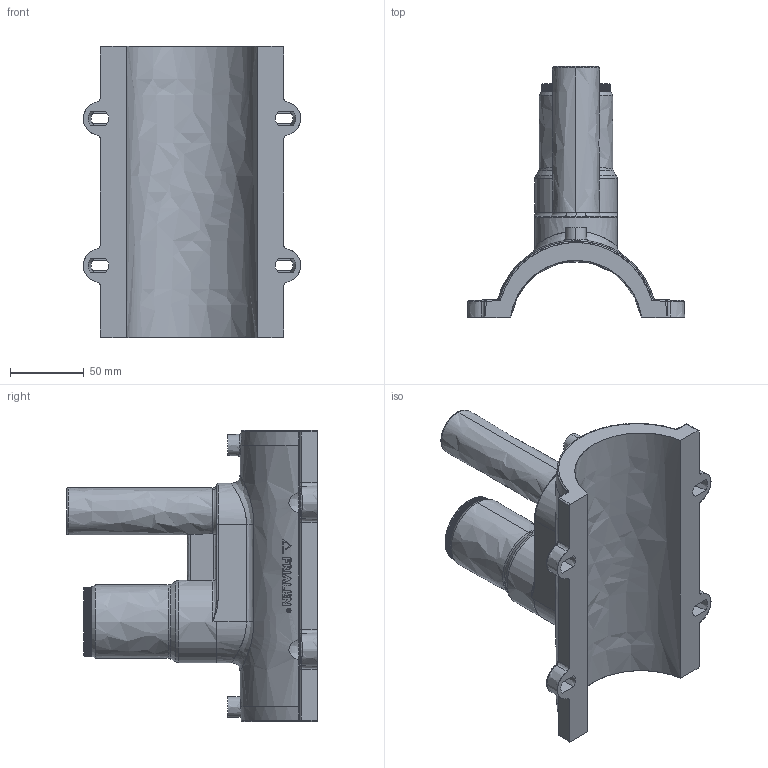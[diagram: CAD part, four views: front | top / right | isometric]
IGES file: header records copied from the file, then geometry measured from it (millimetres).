
Start section:  PTC IGES file: dap_d090_32_01.igs
Global section: file name: dap_d090_32_01.igs; native system: Pro/ENGINEER by Parametric Technology Corporation; preprocessor: 2011490; author: mtunjic; organization: Unknown; date: 20130909.083440; units: millimetre
Bounding box: 147.84 x 170.5 x 198 mm (x, y, z)
Surface area: 113779.2 mm2 (no closed solid volume)
Topology: 0 solids, 0 shells, 809 faces, 4584 edges, 4584 vertices
Faces by surface type: bspline 809
